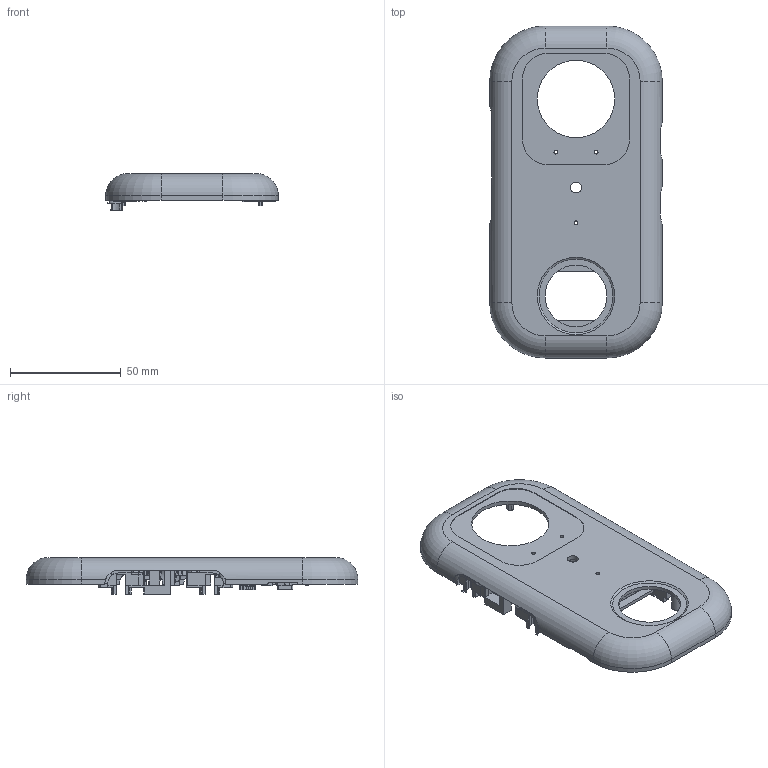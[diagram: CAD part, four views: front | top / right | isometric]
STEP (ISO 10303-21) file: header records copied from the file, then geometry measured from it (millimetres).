
FILE_DESCRIPTION(/* description */ (''),/* implementation_level */ '2;1');
FILE_NAME(/* name */ 'P01.step',/* time_stamp */ '2026-09-15T15:15:19-07:00',/* author */ (''),/* organization */ (''),/* preprocessor_version */ 'ST-DEVELOPER v20.1',/* originating_system */ 'Autodesk Translation Framework v15.8.0.0',/* authorisation */ '');
FILE_SCHEMA (('AUTOMOTIVE_DESIGN { 1 0 10303 214 3 1 1 }'));
Length unit declared in the file: millimetre
Products named in the file (1): 2026-09-15-15-15-19-404
Bounding box: 78 x 150 x 16.6 mm (x, y, z)
Volume: 34311.1 mm3; surface area: 35203 mm2
Topology: 1 solids, 1 shells, 1327 faces, 3791 edges, 2507 vertices
Faces by surface type: plane 883, cylinder 353, torus 51, bspline 29, cone 11
Full cylindrical faces by diameter (mm): 1.65 x2, 1.7 x12, 1.8 x5, 1.85 x1, 2.1 x6, 3 x4, 4.2 x2, 4.9 x1, 5.7 x1, 6 x1, 27.9 x1, 35 x1
Entity records: 53554 total; most frequent: CARTESIAN_POINT 18292, ORIENTED_EDGE 7582, DIRECTION 7208, EDGE_CURVE 3791, VERTEX_POINT 2507, LINE 2464, VECTOR 2464, AXIS2_PLACEMENT_3D 2372
